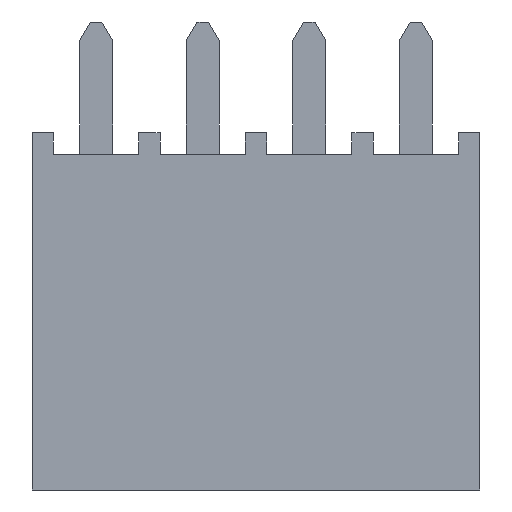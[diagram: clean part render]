
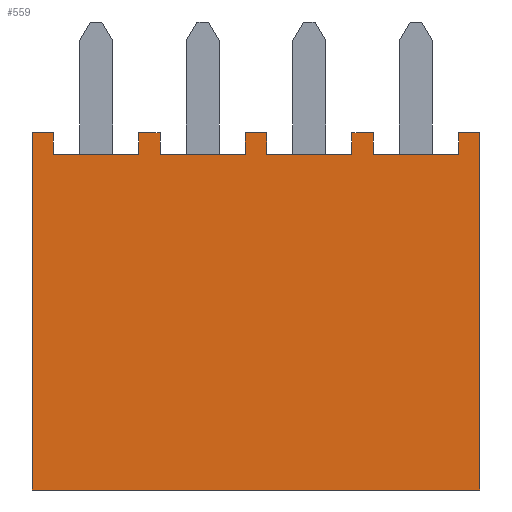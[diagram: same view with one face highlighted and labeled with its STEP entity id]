
A CAD part, front view. The second image highlights one B-rep face of the part: STEP entity #559.
In plain terms, the highlighted planar face has unit normal (0, -1, 0).
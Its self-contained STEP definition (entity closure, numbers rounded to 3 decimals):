
#413 = EDGE_CURVE('',#414,#416,#418,.T.);
#414 = VERTEX_POINT('',#415);
#415 = CARTESIAN_POINT('',(0.254,-2.493,-2.299));
#416 = VERTEX_POINT('',#417);
#417 = CARTESIAN_POINT('',(2.286,-2.493,-2.299));
#418 = LINE('',#419,#420);
#419 = CARTESIAN_POINT('',(5.334,-2.493,-2.299));
#420 = VECTOR('',#421,1.);
#421 = DIRECTION('',(1.,0.,0.));
#559 = ADVANCED_FACE('',(#560),#713,.F.);
#560 = FACE_BOUND('',#561,.T.);
#561 = EDGE_LOOP('',(#562,#572,#580,#588,#596,#602,#603,#611,#619,#627,
    #635,#643,#651,#659,#667,#675,#683,#691,#699,#707));
#562 = ORIENTED_EDGE('',*,*,#563,.F.);
#563 = EDGE_CURVE('',#564,#566,#568,.T.);
#564 = VERTEX_POINT('',#565);
#565 = CARTESIAN_POINT('',(4.826,-2.493,-2.299));
#566 = VERTEX_POINT('',#567);
#567 = CARTESIAN_POINT('',(4.826,-2.493,-1.791));
#568 = LINE('',#569,#570);
#569 = CARTESIAN_POINT('',(4.826,-2.493,-10.3));
#570 = VECTOR('',#571,1.);
#571 = DIRECTION('',(0.,0.,1.));
#572 = ORIENTED_EDGE('',*,*,#573,.F.);
#573 = EDGE_CURVE('',#574,#564,#576,.T.);
#574 = VERTEX_POINT('',#575);
#575 = CARTESIAN_POINT('',(2.794,-2.493,-2.299));
#576 = LINE('',#577,#578);
#577 = CARTESIAN_POINT('',(5.334,-2.493,-2.299));
#578 = VECTOR('',#579,1.);
#579 = DIRECTION('',(1.,0.,0.));
#580 = ORIENTED_EDGE('',*,*,#581,.F.);
#581 = EDGE_CURVE('',#582,#574,#584,.T.);
#582 = VERTEX_POINT('',#583);
#583 = CARTESIAN_POINT('',(2.794,-2.493,-1.791));
#584 = LINE('',#585,#586);
#585 = CARTESIAN_POINT('',(2.794,-2.493,-10.3));
#586 = VECTOR('',#587,1.);
#587 = DIRECTION('',(0.,0.,-1.));
#588 = ORIENTED_EDGE('',*,*,#589,.T.);
#589 = EDGE_CURVE('',#582,#590,#592,.T.);
#590 = VERTEX_POINT('',#591);
#591 = CARTESIAN_POINT('',(2.286,-2.493,-1.791));
#592 = LINE('',#593,#594);
#593 = CARTESIAN_POINT('',(5.334,-2.493,-1.791));
#594 = VECTOR('',#595,1.);
#595 = DIRECTION('',(-1.,0.,0.));
#596 = ORIENTED_EDGE('',*,*,#597,.F.);
#597 = EDGE_CURVE('',#416,#590,#598,.T.);
#598 = LINE('',#599,#600);
#599 = CARTESIAN_POINT('',(2.286,-2.493,-10.3));
#600 = VECTOR('',#601,1.);
#601 = DIRECTION('',(0.,0.,1.));
#602 = ORIENTED_EDGE('',*,*,#413,.F.);
#603 = ORIENTED_EDGE('',*,*,#604,.F.);
#604 = EDGE_CURVE('',#605,#414,#607,.T.);
#605 = VERTEX_POINT('',#606);
#606 = CARTESIAN_POINT('',(0.254,-2.493,-1.791));
#607 = LINE('',#608,#609);
#608 = CARTESIAN_POINT('',(0.254,-2.493,-10.3));
#609 = VECTOR('',#610,1.);
#610 = DIRECTION('',(0.,0.,-1.));
#611 = ORIENTED_EDGE('',*,*,#612,.T.);
#612 = EDGE_CURVE('',#605,#613,#615,.T.);
#613 = VERTEX_POINT('',#614);
#614 = CARTESIAN_POINT('',(-0.254,-2.493,-1.791));
#615 = LINE('',#616,#617);
#616 = CARTESIAN_POINT('',(5.334,-2.493,-1.791));
#617 = VECTOR('',#618,1.);
#618 = DIRECTION('',(-1.,0.,0.));
#619 = ORIENTED_EDGE('',*,*,#620,.F.);
#620 = EDGE_CURVE('',#621,#613,#623,.T.);
#621 = VERTEX_POINT('',#622);
#622 = CARTESIAN_POINT('',(-0.254,-2.493,-2.299));
#623 = LINE('',#624,#625);
#624 = CARTESIAN_POINT('',(-0.254,-2.493,-10.3));
#625 = VECTOR('',#626,1.);
#626 = DIRECTION('',(0.,0.,1.));
#627 = ORIENTED_EDGE('',*,*,#628,.F.);
#628 = EDGE_CURVE('',#629,#621,#631,.T.);
#629 = VERTEX_POINT('',#630);
#630 = CARTESIAN_POINT('',(-2.286,-2.493,-2.299));
#631 = LINE('',#632,#633);
#632 = CARTESIAN_POINT('',(5.334,-2.493,-2.299));
#633 = VECTOR('',#634,1.);
#634 = DIRECTION('',(1.,0.,0.));
#635 = ORIENTED_EDGE('',*,*,#636,.F.);
#636 = EDGE_CURVE('',#637,#629,#639,.T.);
#637 = VERTEX_POINT('',#638);
#638 = CARTESIAN_POINT('',(-2.286,-2.493,-1.791));
#639 = LINE('',#640,#641);
#640 = CARTESIAN_POINT('',(-2.286,-2.493,-10.3));
#641 = VECTOR('',#642,1.);
#642 = DIRECTION('',(0.,0.,-1.));
#643 = ORIENTED_EDGE('',*,*,#644,.T.);
#644 = EDGE_CURVE('',#637,#645,#647,.T.);
#645 = VERTEX_POINT('',#646);
#646 = CARTESIAN_POINT('',(-2.794,-2.493,-1.791));
#647 = LINE('',#648,#649);
#648 = CARTESIAN_POINT('',(5.334,-2.493,-1.791));
#649 = VECTOR('',#650,1.);
#650 = DIRECTION('',(-1.,0.,0.));
#651 = ORIENTED_EDGE('',*,*,#652,.F.);
#652 = EDGE_CURVE('',#653,#645,#655,.T.);
#653 = VERTEX_POINT('',#654);
#654 = CARTESIAN_POINT('',(-2.794,-2.493,-2.299));
#655 = LINE('',#656,#657);
#656 = CARTESIAN_POINT('',(-2.794,-2.493,-10.3));
#657 = VECTOR('',#658,1.);
#658 = DIRECTION('',(0.,0.,1.));
#659 = ORIENTED_EDGE('',*,*,#660,.F.);
#660 = EDGE_CURVE('',#661,#653,#663,.T.);
#661 = VERTEX_POINT('',#662);
#662 = CARTESIAN_POINT('',(-4.826,-2.493,-2.299));
#663 = LINE('',#664,#665);
#664 = CARTESIAN_POINT('',(5.334,-2.493,-2.299));
#665 = VECTOR('',#666,1.);
#666 = DIRECTION('',(1.,0.,0.));
#667 = ORIENTED_EDGE('',*,*,#668,.F.);
#668 = EDGE_CURVE('',#669,#661,#671,.T.);
#669 = VERTEX_POINT('',#670);
#670 = CARTESIAN_POINT('',(-4.826,-2.493,-1.791));
#671 = LINE('',#672,#673);
#672 = CARTESIAN_POINT('',(-4.826,-2.493,-10.3));
#673 = VECTOR('',#674,1.);
#674 = DIRECTION('',(0.,0.,-1.));
#675 = ORIENTED_EDGE('',*,*,#676,.T.);
#676 = EDGE_CURVE('',#669,#677,#679,.T.);
#677 = VERTEX_POINT('',#678);
#678 = CARTESIAN_POINT('',(-5.334,-2.493,-1.791));
#679 = LINE('',#680,#681);
#680 = CARTESIAN_POINT('',(5.334,-2.493,-1.791));
#681 = VECTOR('',#682,1.);
#682 = DIRECTION('',(-1.,0.,0.));
#683 = ORIENTED_EDGE('',*,*,#684,.F.);
#684 = EDGE_CURVE('',#685,#677,#687,.T.);
#685 = VERTEX_POINT('',#686);
#686 = CARTESIAN_POINT('',(-5.334,-2.493,-10.3));
#687 = LINE('',#688,#689);
#688 = CARTESIAN_POINT('',(-5.334,-2.493,-10.3));
#689 = VECTOR('',#690,1.);
#690 = DIRECTION('',(0.,0.,1.));
#691 = ORIENTED_EDGE('',*,*,#692,.F.);
#692 = EDGE_CURVE('',#693,#685,#695,.T.);
#693 = VERTEX_POINT('',#694);
#694 = CARTESIAN_POINT('',(5.334,-2.493,-10.3));
#695 = LINE('',#696,#697);
#696 = CARTESIAN_POINT('',(5.334,-2.493,-10.3));
#697 = VECTOR('',#698,1.);
#698 = DIRECTION('',(-1.,0.,0.));
#699 = ORIENTED_EDGE('',*,*,#700,.T.);
#700 = EDGE_CURVE('',#693,#701,#703,.T.);
#701 = VERTEX_POINT('',#702);
#702 = CARTESIAN_POINT('',(5.334,-2.493,-1.791));
#703 = LINE('',#704,#705);
#704 = CARTESIAN_POINT('',(5.334,-2.493,-10.3));
#705 = VECTOR('',#706,1.);
#706 = DIRECTION('',(0.,0.,1.));
#707 = ORIENTED_EDGE('',*,*,#708,.T.);
#708 = EDGE_CURVE('',#701,#566,#709,.T.);
#709 = LINE('',#710,#711);
#710 = CARTESIAN_POINT('',(5.334,-2.493,-1.791));
#711 = VECTOR('',#712,1.);
#712 = DIRECTION('',(-1.,0.,0.));
#713 = PLANE('',#714);
#714 = AXIS2_PLACEMENT_3D('',#715,#716,#717);
#715 = CARTESIAN_POINT('',(5.334,-2.493,-10.3));
#716 = DIRECTION('',(0.,1.,0.));
#717 = DIRECTION('',(1.,0.,0.));
